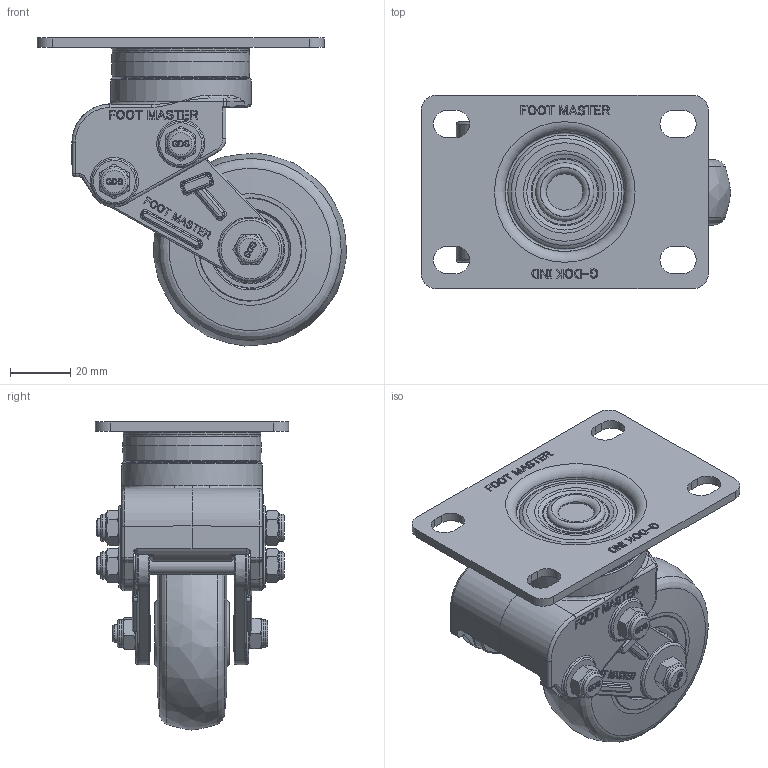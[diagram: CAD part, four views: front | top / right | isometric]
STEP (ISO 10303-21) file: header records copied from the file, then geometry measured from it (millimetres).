
FILE_DESCRIPTION(/* description */ (''),/* implementation_level */ '2;1');
FILE_NAME(/* name */ 'C:\Users\admin\Desktop\JYS\개발품\상세설계_20220328\홈페이지용 도면\GDSA-65-ASF-EUS-PUS.stp',/* time_stamp */ '2023-03-08T16:00:26+09:00',/* author */ ('admin'),/* organization */ (''),/* preprocessor_version */ 'ST-DEVELOPER v18.1',/* originating_system */ 'Autodesk Inventor 2021',/* authorisation */ '');
FILE_SCHEMA (('AUTOMOTIVE_DESIGN { 1 0 10303 214 3 1 1 }'));
Length unit declared in the file: millimetre
Products named in the file (1): GDS-65-ASF-AGV,AMR_(US)_Shrinkwrap_1
Bounding box: 102.44 x 64 x 101.94 mm (x, y, z)
Volume: 153697.1 mm3; surface area: 52831.2 mm2
Topology: 1 solids, 1 shells, 1946 faces, 5141 edges, 3315 vertices
Faces by surface type: plane 766, bspline 642, cylinder 244, cone 155, torus 123, sphere 16
Full cylindrical faces by diameter (mm): 6 x5, 8.8 x3, 9 x6, 12 x1, 17.216 x2, 18 x1, 19.3 x1, 20 x2, 22 x2, 22.784 x2, 30 x1, 42.5 x1, 46.5 x1
Entity records: 67368 total; most frequent: CARTESIAN_POINT 21241, ORIENTED_EDGE 10258, DIRECTION 7372, EDGE_CURVE 5129, VERTEX_POINT 3315, LINE 2504, VECTOR 2504, AXIS2_PLACEMENT_3D 2434
